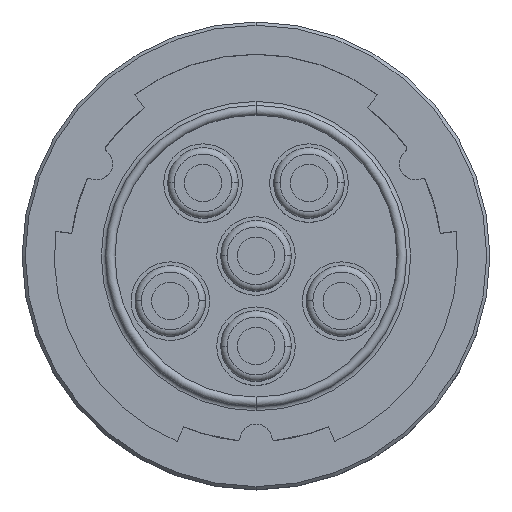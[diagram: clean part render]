
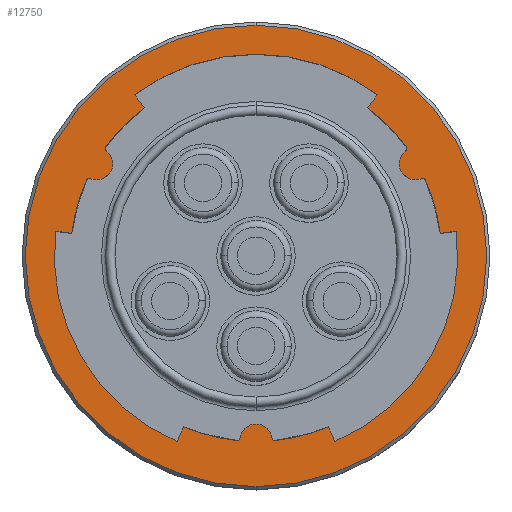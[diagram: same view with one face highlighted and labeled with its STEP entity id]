
A CAD part, top view. The second image highlights one B-rep face of the part: STEP entity #12750.
In plain terms, the highlighted planar face has unit normal (0, 0, 1).
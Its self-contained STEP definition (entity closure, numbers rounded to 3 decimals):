
#5802=CARTESIAN_POINT('',(0.,0.,0.));
#5803=DIRECTION('',(0.,0.,-1.));
#5804=DIRECTION('',(0.914,0.406,0.));
#5805=AXIS2_PLACEMENT_3D('',#5802,#5803,#5804);
#5810=CARTESIAN_POINT('',(13.147,5.849,0.));
#5811=DIRECTION('',(0.,0.,-1.));
#5812=DIRECTION('',(-0.37,0.929,0.));
#5813=AXIS2_PLACEMENT_3D('',#5810,#5811,#5812);
#5818=CARTESIAN_POINT('',(12.582,7.264,0.));
#5819=DIRECTION('',(0.,0.,1.));
#5820=DIRECTION('',(-0.619,0.785,0.));
#5821=AXIS2_PLACEMENT_3D('',#5818,#5819,#5820);
#5826=CARTESIAN_POINT('',(11.639,8.461,0.));
#5827=DIRECTION('',(0.,0.,-1.));
#5828=DIRECTION('',(0.809,0.588,0.));
#5829=AXIS2_PLACEMENT_3D('',#5826,#5827,#5828);
#5834=CARTESIAN_POINT('',(0.,0.,0.));
#5835=DIRECTION('',(0.,0.,-1.));
#5836=DIRECTION('',(0.602,0.799,0.));
#5837=AXIS2_PLACEMENT_3D('',#5834,#5835,#5836);
#5842=DIRECTION('',(-0.602,-0.799,0.));
#5843=VECTOR('',#5842,1.27);
#5844=CARTESIAN_POINT('',(9.578,12.708,0.));
#5845=LINE('',#5844,#5843);
#5849=DIRECTION('',(-0.602,0.799,0.));
#5850=VECTOR('',#5849,1.27);
#5851=CARTESIAN_POINT('',(-8.813,11.694,0.));
#5852=LINE('',#5851,#5850);
#5856=CARTESIAN_POINT('',(0.,0.,0.));
#5857=DIRECTION('',(0.,0.,-1.));
#5858=DIRECTION('',(-0.809,0.588,0.));
#5859=AXIS2_PLACEMENT_3D('',#5856,#5857,#5858);
#5864=CARTESIAN_POINT('',(-11.639,8.461,0.));
#5865=DIRECTION('',(0.,0.,-1.));
#5866=DIRECTION('',(-0.619,-0.785,0.));
#5867=AXIS2_PLACEMENT_3D('',#5864,#5865,#5866);
#5872=CARTESIAN_POINT('',(-12.582,7.264,0.));
#5873=DIRECTION('',(0.,0.,1.));
#5874=DIRECTION('',(-0.37,-0.929,0.));
#5875=AXIS2_PLACEMENT_3D('',#5872,#5873,#5874);
#5880=CARTESIAN_POINT('',(-13.147,5.849,0.));
#5881=DIRECTION('',(0.,0.,-1.));
#5882=DIRECTION('',(-0.914,0.406,0.));
#5883=AXIS2_PLACEMENT_3D('',#5880,#5881,#5882);
#5888=CARTESIAN_POINT('',(0.,0.,0.));
#5889=DIRECTION('',(0.,0.,-1.));
#5890=DIRECTION('',(-0.993,0.122,0.));
#5891=AXIS2_PLACEMENT_3D('',#5888,#5889,#5890);
#5896=DIRECTION('',(0.993,-0.122,0.));
#5897=VECTOR('',#5896,1.27);
#5898=CARTESIAN_POINT('',(-15.794,1.94,0.));
#5899=LINE('',#5898,#5897);
#5903=DIRECTION('',(-0.391,-0.921,0.));
#5904=VECTOR('',#5903,1.27);
#5905=CARTESIAN_POINT('',(-5.721,-13.479,0.));
#5906=LINE('',#5905,#5904);
#5910=CARTESIAN_POINT('',(0.,0.,0.));
#5911=DIRECTION('',(0.,0.,-1.));
#5912=DIRECTION('',(-0.105,-0.994,0.));
#5913=AXIS2_PLACEMENT_3D('',#5910,#5911,#5912);
#5918=CARTESIAN_POINT('',(-1.508,-14.31,0.));
#5919=DIRECTION('',(0.,0.,-1.));
#5920=DIRECTION('',(0.99,-0.144,0.));
#5921=AXIS2_PLACEMENT_3D('',#5918,#5919,#5920);
#5926=CARTESIAN_POINT('',(0.,-14.529,0.));
#5927=DIRECTION('',(0.,0.,1.));
#5928=DIRECTION('',(0.99,0.144,0.));
#5929=AXIS2_PLACEMENT_3D('',#5926,#5927,#5928);
#5934=CARTESIAN_POINT('',(1.508,-14.31,0.));
#5935=DIRECTION('',(0.,0.,-1.));
#5936=DIRECTION('',(0.105,-0.994,0.));
#5937=AXIS2_PLACEMENT_3D('',#5934,#5935,#5936);
#5942=CARTESIAN_POINT('',(0.,0.,0.));
#5943=DIRECTION('',(0.,0.,-1.));
#5944=DIRECTION('',(0.391,-0.921,0.));
#5945=AXIS2_PLACEMENT_3D('',#5942,#5943,#5944);
#5950=DIRECTION('',(-0.391,0.921,0.));
#5951=VECTOR('',#5950,1.27);
#5952=CARTESIAN_POINT('',(6.217,-14.649,0.));
#5953=LINE('',#5952,#5951);
#5957=DIRECTION('',(0.993,0.122,0.));
#5958=VECTOR('',#5957,1.27);
#5959=CARTESIAN_POINT('',(14.534,1.786,0.));
#5960=LINE('',#5959,#5958);
#5964=CARTESIAN_POINT('',(0.,0.,0.));
#5965=DIRECTION('',(0.,0.,-1.));
#5966=DIRECTION('',(0.,-1.,0.));
#5967=AXIS2_PLACEMENT_3D('',#5964,#5965,#5966);
#5972=CARTESIAN_POINT('',(0.,0.,0.));
#5973=DIRECTION('',(0.,0.,-1.));
#5974=DIRECTION('',(0.,1.,0.));
#5975=AXIS2_PLACEMENT_3D('',#5972,#5973,#5974);
#6061=CARTESIAN_POINT('',(0.,0.,0.));
#6062=DIRECTION('',(0.,0.,-1.));
#6063=DIRECTION('',(-0.391,-0.921,0.));
#6064=AXIS2_PLACEMENT_3D('',#6061,#6062,#6063);
#6091=CARTESIAN_POINT('',(0.,0.,0.));
#6092=DIRECTION('',(0.,0.,-1.));
#6093=DIRECTION('',(0.993,0.122,0.));
#6094=AXIS2_PLACEMENT_3D('',#6091,#6092,#6093);
#6136=CARTESIAN_POINT('',(0.,0.,0.));
#6137=DIRECTION('',(0.,0.,-1.));
#6138=DIRECTION('',(-0.602,0.799,0.));
#6139=AXIS2_PLACEMENT_3D('',#6136,#6137,#6138);
#7796=CARTESIAN_POINT('',(-9.578,12.708,0.));
#7797=VERTEX_POINT('',#7796);
#7798=CARTESIAN_POINT('',(-15.794,1.94,0.));
#7799=VERTEX_POINT('',#7798);
#7800=CARTESIAN_POINT('',(-8.813,11.694,0.));
#7801=VERTEX_POINT('',#7800);
#7802=CARTESIAN_POINT('',(-14.534,1.786,0.));
#7803=VERTEX_POINT('',#7802);
#7804=CARTESIAN_POINT('',(-13.053,6.085,0.));
#7805=CARTESIAN_POINT('',(-11.796,8.262,0.));
#7806=VERTEX_POINT('',#7804);
#7807=VERTEX_POINT('',#7805);
#7816=CARTESIAN_POINT('',(-11.844,8.61,0.));
#7817=VERTEX_POINT('',#7816);
#7818=CARTESIAN_POINT('',(-13.379,5.952,0.));
#7819=VERTEX_POINT('',#7818);
#7820=CARTESIAN_POINT('',(-5.721,-13.479,0.));
#7821=CARTESIAN_POINT('',(-6.217,-14.649,0.));
#7822=VERTEX_POINT('',#7820);
#7823=VERTEX_POINT('',#7821);
#7824=CARTESIAN_POINT('',(6.217,-14.649,0.));
#7825=CARTESIAN_POINT('',(5.721,-13.479,0.));
#7826=VERTEX_POINT('',#7824);
#7827=VERTEX_POINT('',#7825);
#7832=CARTESIAN_POINT('',(1.257,-14.346,0.));
#7833=CARTESIAN_POINT('',(-1.257,-14.346,0.));
#7834=VERTEX_POINT('',#7832);
#7835=VERTEX_POINT('',#7833);
#7840=CARTESIAN_POINT('',(-1.535,-14.562,0.));
#7841=VERTEX_POINT('',#7840);
#7842=CARTESIAN_POINT('',(1.535,-14.562,0.));
#7843=VERTEX_POINT('',#7842);
#7848=CARTESIAN_POINT('',(14.534,1.786,0.));
#7849=CARTESIAN_POINT('',(15.794,1.94,0.));
#7850=VERTEX_POINT('',#7848);
#7851=VERTEX_POINT('',#7849);
#7852=CARTESIAN_POINT('',(9.578,12.708,0.));
#7853=CARTESIAN_POINT('',(8.813,11.694,0.));
#7854=VERTEX_POINT('',#7852);
#7855=VERTEX_POINT('',#7853);
#7860=CARTESIAN_POINT('',(11.796,8.262,0.));
#7861=CARTESIAN_POINT('',(13.053,6.085,0.));
#7862=VERTEX_POINT('',#7860);
#7863=VERTEX_POINT('',#7861);
#7868=CARTESIAN_POINT('',(13.379,5.952,0.));
#7869=VERTEX_POINT('',#7868);
#7870=CARTESIAN_POINT('',(11.844,8.61,0.));
#7871=VERTEX_POINT('',#7870);
#7936=CARTESIAN_POINT('',(0.,-18.199,0.));
#7937=CARTESIAN_POINT('',(0.,18.199,0.));
#7938=VERTEX_POINT('',#7936);
#7939=VERTEX_POINT('',#7937);
#12691=CARTESIAN_POINT('',(0.,0.,0.));
#12692=DIRECTION('',(0.,0.,1.));
#12693=DIRECTION('',(0.,1.,0.));
#12694=AXIS2_PLACEMENT_3D('',#12691,#12692,#12693);
#12695=PLANE('',#12694);
#12696=ORIENTED_EDGE('',*,*,#8389,.T.);
#12697=ORIENTED_EDGE('',*,*,#8374,.T.);
#12698=EDGE_LOOP('',(#12696,#12697));
#12699=FACE_OUTER_BOUND('',#12698,.F.);
#12701=ORIENTED_EDGE('',*,*,#12700,.F.);
#12703=ORIENTED_EDGE('',*,*,#12702,.F.);
#12705=ORIENTED_EDGE('',*,*,#12704,.F.);
#12707=ORIENTED_EDGE('',*,*,#12706,.F.);
#12709=ORIENTED_EDGE('',*,*,#12708,.F.);
#12711=ORIENTED_EDGE('',*,*,#12710,.F.);
#12713=ORIENTED_EDGE('',*,*,#12712,.F.);
#12715=ORIENTED_EDGE('',*,*,#12714,.F.);
#12717=ORIENTED_EDGE('',*,*,#12716,.F.);
#12719=ORIENTED_EDGE('',*,*,#12718,.F.);
#12721=ORIENTED_EDGE('',*,*,#12720,.F.);
#12723=ORIENTED_EDGE('',*,*,#12722,.F.);
#12725=ORIENTED_EDGE('',*,*,#12724,.F.);
#12727=ORIENTED_EDGE('',*,*,#12726,.F.);
#12729=ORIENTED_EDGE('',*,*,#12728,.F.);
#12731=ORIENTED_EDGE('',*,*,#12730,.F.);
#12733=ORIENTED_EDGE('',*,*,#12732,.F.);
#12735=ORIENTED_EDGE('',*,*,#12734,.F.);
#12737=ORIENTED_EDGE('',*,*,#12736,.F.);
#12739=ORIENTED_EDGE('',*,*,#12738,.F.);
#12741=ORIENTED_EDGE('',*,*,#12740,.F.);
#12743=ORIENTED_EDGE('',*,*,#12742,.F.);
#12745=ORIENTED_EDGE('',*,*,#12744,.F.);
#12747=ORIENTED_EDGE('',*,*,#12746,.F.);
#12748=EDGE_LOOP('',(#12701,#12703,#12705,#12707,#12709,#12711,#12713,#12715,
#12717,#12719,#12721,#12723,#12725,#12727,#12729,#12731,#12733,#12735,#12737,
#12739,#12741,#12743,#12745,#12747));
#12749=FACE_BOUND('',#12748,.F.);
#12750=ADVANCED_FACE('',(#12699,#12749),#12695,.T.);
#5806=CIRCLE('',#5805,14.643);
#5814=CIRCLE('',#5813,0.254);
#5822=CIRCLE('',#5821,1.27);
#5830=CIRCLE('',#5829,0.254);
#5838=CIRCLE('',#5837,14.643);
#5860=CIRCLE('',#5859,14.643);
#5868=CIRCLE('',#5867,0.254);
#5876=CIRCLE('',#5875,1.27);
#5884=CIRCLE('',#5883,0.254);
#5892=CIRCLE('',#5891,14.643);
#5914=CIRCLE('',#5913,14.643);
#5922=CIRCLE('',#5921,0.254);
#5930=CIRCLE('',#5929,1.27);
#5938=CIRCLE('',#5937,0.254);
#5946=CIRCLE('',#5945,14.643);
#5968=CIRCLE('',#5967,18.199);
#5976=CIRCLE('',#5975,18.199);
#6065=CIRCLE('',#6064,15.913);
#6095=CIRCLE('',#6094,15.913);
#6140=CIRCLE('',#6139,15.913);
#8374=EDGE_CURVE('',#7939,#7938,#5976,.T.);
#8389=EDGE_CURVE('',#7938,#7939,#5968,.T.);
#12700=EDGE_CURVE('',#7869,#7850,#5806,.T.);
#12702=EDGE_CURVE('',#7863,#7869,#5814,.T.);
#12704=EDGE_CURVE('',#7862,#7863,#5822,.T.);
#12706=EDGE_CURVE('',#7871,#7862,#5830,.T.);
#12708=EDGE_CURVE('',#7855,#7871,#5838,.T.);
#12710=EDGE_CURVE('',#7854,#7855,#5845,.T.);
#12712=EDGE_CURVE('',#7797,#7854,#6140,.T.);
#12714=EDGE_CURVE('',#7801,#7797,#5852,.T.);
#12716=EDGE_CURVE('',#7817,#7801,#5860,.T.);
#12718=EDGE_CURVE('',#7807,#7817,#5868,.T.);
#12720=EDGE_CURVE('',#7806,#7807,#5876,.T.);
#12722=EDGE_CURVE('',#7819,#7806,#5884,.T.);
#12724=EDGE_CURVE('',#7803,#7819,#5892,.T.);
#12726=EDGE_CURVE('',#7799,#7803,#5899,.T.);
#12728=EDGE_CURVE('',#7823,#7799,#6065,.T.);
#12730=EDGE_CURVE('',#7822,#7823,#5906,.T.);
#12732=EDGE_CURVE('',#7841,#7822,#5914,.T.);
#12734=EDGE_CURVE('',#7835,#7841,#5922,.T.);
#12736=EDGE_CURVE('',#7834,#7835,#5930,.T.);
#12738=EDGE_CURVE('',#7843,#7834,#5938,.T.);
#12740=EDGE_CURVE('',#7827,#7843,#5946,.T.);
#12742=EDGE_CURVE('',#7826,#7827,#5953,.T.);
#12744=EDGE_CURVE('',#7851,#7826,#6095,.T.);
#12746=EDGE_CURVE('',#7850,#7851,#5960,.T.);
